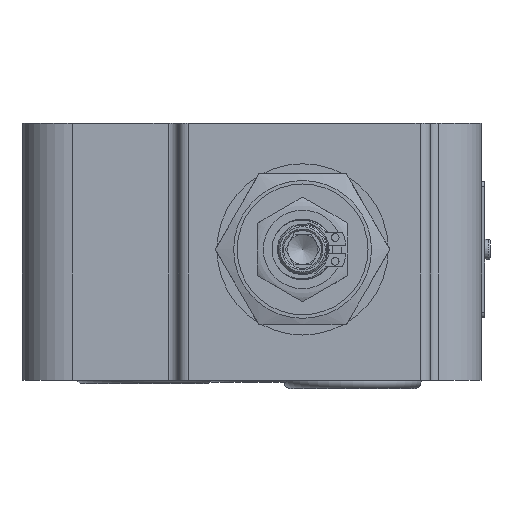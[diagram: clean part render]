
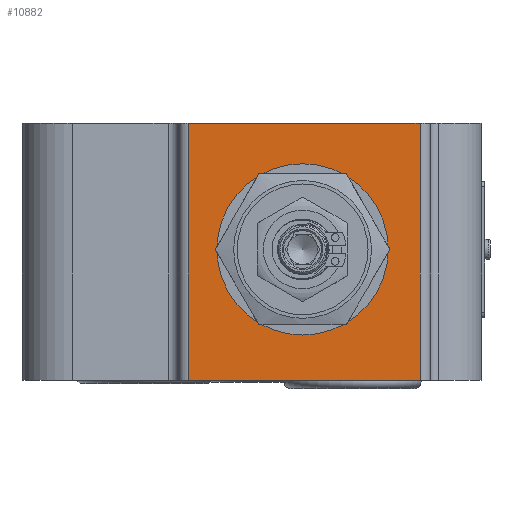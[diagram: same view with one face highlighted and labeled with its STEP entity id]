
A CAD part, left-side view. The second image highlights one B-rep face of the part: STEP entity #10882.
In plain terms, the highlighted planar face has unit normal (-1, 0, 0).
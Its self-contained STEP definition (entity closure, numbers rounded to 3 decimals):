
#1074=PLANE('',#13774);
#2509=EDGE_LOOP('',(#5876));
#2510=EDGE_LOOP('',(#5877,#5878,#5879,#5880));
#3424=LINE('',#40731,#4071);
#3438=LINE('',#40824,#4085);
#3457=LINE('',#40897,#4104);
#3458=LINE('',#40901,#4105);
#4071=VECTOR('',#15761,1.);
#4085=VECTOR('',#15841,1.);
#4104=VECTOR('',#15930,1.);
#4105=VECTOR('',#15935,1.);
#5876=ORIENTED_EDGE('',*,*,#8911,.F.);
#5877=ORIENTED_EDGE('',*,*,#8874,.F.);
#5878=ORIENTED_EDGE('',*,*,#8910,.F.);
#5879=ORIENTED_EDGE('',*,*,#8828,.T.);
#5880=ORIENTED_EDGE('',*,*,#8912,.T.);
#8828=EDGE_CURVE('',#12576,#12575,#3424,.T.);
#8874=EDGE_CURVE('',#12621,#12622,#3438,.T.);
#8910=EDGE_CURVE('',#12576,#12621,#3457,.T.);
#8911=EDGE_CURVE('',#12641,#12641,#10050,.T.);
#8912=EDGE_CURVE('',#12575,#12622,#3458,.T.);
#10050=CIRCLE('',#13773,17.);
#10882=ADVANCED_FACE('',(#11634,#11635),#1074,.T.);
#11634=FACE_BOUND('',#2509,.T.);
#11635=FACE_BOUND('',#2510,.T.);
#12575=VERTEX_POINT('',#40730);
#12576=VERTEX_POINT('',#40732);
#12621=VERTEX_POINT('',#40823);
#12622=VERTEX_POINT('',#40825);
#12641=VERTEX_POINT('',#40900);
#13773=AXIS2_PLACEMENT_3D('',#40899,#15933,#15934);
#13774=AXIS2_PLACEMENT_3D('',#40902,#15936,#15937);
#15761=DIRECTION('',(0.,1.,0.));
#15841=DIRECTION('',(0.,1.,0.));
#15930=DIRECTION('',(0.,0.,-1.));
#15933=DIRECTION('',(-1.,0.,0.));
#15934=DIRECTION('',(0.,0.,1.));
#15935=DIRECTION('',(0.,0.,-1.));
#15936=DIRECTION('',(-1.,0.,0.));
#15937=DIRECTION('',(0.,-1.,0.));
#40730=CARTESIAN_POINT('',(34.725,32.729,81.));
#40731=CARTESIAN_POINT('',(34.725,-13.271,81.));
#40732=CARTESIAN_POINT('',(34.725,-13.271,81.));
#40823=CARTESIAN_POINT('',(34.725,-13.271,30.));
#40824=CARTESIAN_POINT('',(34.725,-13.271,30.));
#40825=CARTESIAN_POINT('',(34.725,32.729,30.));
#40897=CARTESIAN_POINT('',(34.725,-13.271,81.));
#40899=CARTESIAN_POINT('',(34.725,10.038,56.));
#40900=CARTESIAN_POINT('',(34.725,10.038,73.));
#40901=CARTESIAN_POINT('',(34.725,32.729,81.));
#40902=CARTESIAN_POINT('',(34.725,-13.271,81.));
